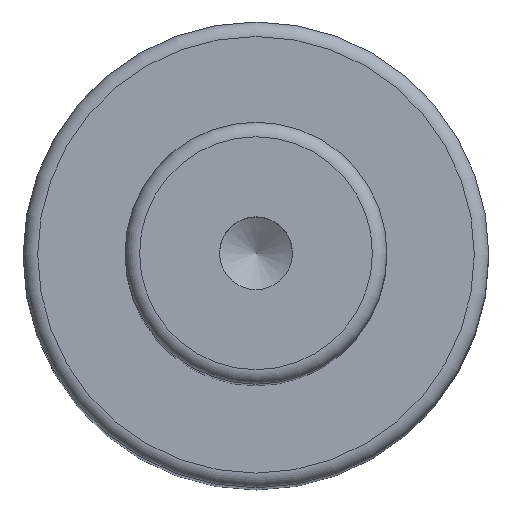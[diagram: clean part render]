
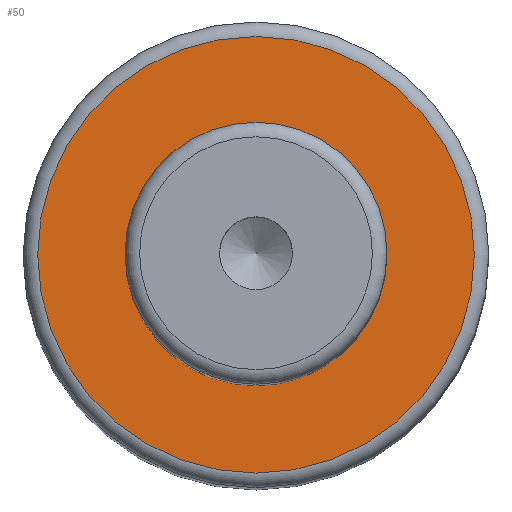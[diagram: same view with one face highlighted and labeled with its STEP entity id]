
A CAD part, top view. The second image highlights one B-rep face of the part: STEP entity #50.
In plain terms, the highlighted planar face has unit normal (0, 0, 1).
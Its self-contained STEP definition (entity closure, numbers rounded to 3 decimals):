
#40=PLANE('',#179);
#50=ADVANCED_FACE('',(#72,#73),#40,.F.);
#72=FACE_BOUND('',#96,.T.);
#73=FACE_BOUND('',#97,.T.);
#96=EDGE_LOOP('',(#118));
#97=EDGE_LOOP('',(#119));
#118=ORIENTED_EDGE('',*,*,#149,.F.);
#119=ORIENTED_EDGE('',*,*,#148,.T.);
#135=VERTEX_POINT('',#256);
#136=VERTEX_POINT('',#259);
#148=EDGE_CURVE('',#135,#135,#159,.T.);
#149=EDGE_CURVE('',#136,#136,#160,.T.);
#159=CIRCLE('',#176,9.);
#160=CIRCLE('',#178,15.);
#176=AXIS2_PLACEMENT_3D('',#255,#213,#214);
#178=AXIS2_PLACEMENT_3D('',#258,#217,#218);
#179=AXIS2_PLACEMENT_3D('',#260,#219,#220);
#213=DIRECTION('',(0.,0.,-1.));
#214=DIRECTION('',(-1.,0.,0.));
#217=DIRECTION('',(0.,0.,-1.));
#218=DIRECTION('',(-1.,0.,0.));
#219=DIRECTION('',(0.,0.,-1.));
#220=DIRECTION('',(-1.,0.,0.));
#255=CARTESIAN_POINT('',(0.,0.,92.));
#256=CARTESIAN_POINT('',(-9.,0.,92.));
#258=CARTESIAN_POINT('',(0.,0.,92.));
#259=CARTESIAN_POINT('',(-15.,0.,92.));
#260=CARTESIAN_POINT('',(9.,0.,92.));
